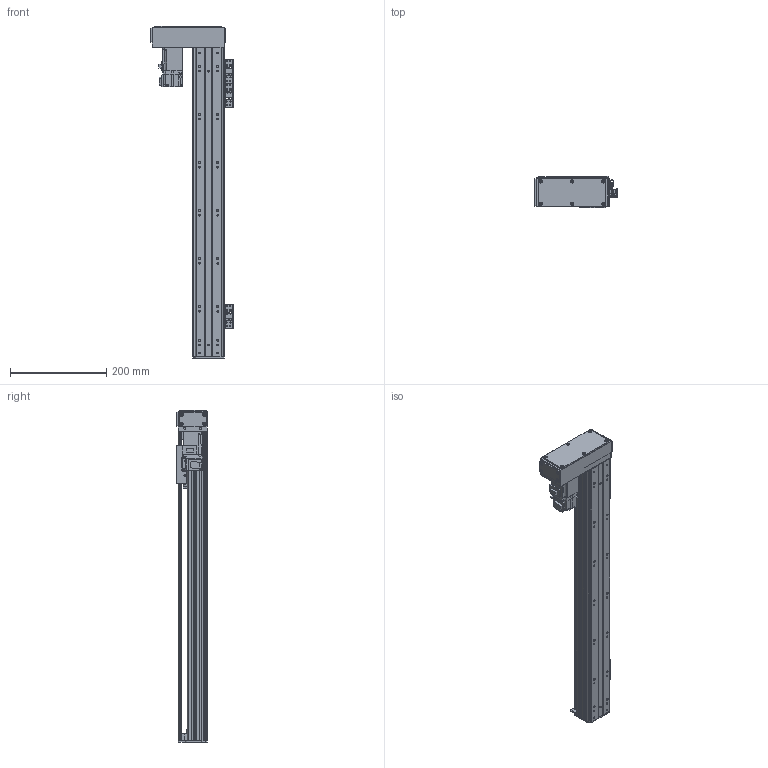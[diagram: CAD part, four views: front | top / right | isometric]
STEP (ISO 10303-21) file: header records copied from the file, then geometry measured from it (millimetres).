
FILE_DESCRIPTION(/* description */ ('MANUFACTURE'),/* implementation_level */ '2;1');
FILE_NAME(/* name */ '\\192.168.0.160\disk1\HAN SHIN Master\B-설계부문\C-표준\B-2024년\BC02-표준도면\+로봇 개선표준도면\표준 승인도 폴더 - 재작업\3D\HG65\병렬-L\HG65-L10-N-0500-R10.stp',/* time_stamp */ '2024-03-05T15:05:45+09:00',/* author */ ('User'),/* organization */ (''),/* preprocessor_version */ 'ST-DEVELOPER v18.1',/* originating_system */ 'Autodesk Inventor 2022',/* authorisation */ 'LIP');
FILE_SCHEMA (('AUTOMOTIVE_DESIGN { 1 0 10303 214 3 1 1 }'));
Products named in the file (22): HG65-L10-N-0500-R10 - 간소화; HR65 R BASE; HR65,75 SENSOR DOG; HR65 REAR COVER; HR65 FRONT BLOCK; HR65 FRONT BLOCK_1; hsr_ftht_A-M6F_grease_nipple_joint; HR65 UPCOVER (S); NIPPLE CAP(신규); HC1STOPPER; HR65 L,R MOTOR PLATE (100W)-사출; MOTOR PLATE-100W(MITSUBISHI); hg-kr13_; 화살표; HR65-LR-BELT COVER; HR65-BELT COVER-COVER; HR65-BELT COVER-COVER2; HR65-BELT COVER-COVER3; HR65 TABLE(Wide&Normal); ESF1210 NUT; SENSOR BRK(EE-SX674A); EE_SX674A
Assembly tree (34 placements, depth 2):
  HG65-L10-N-0500-R10 - 간소화
    HR65 R BASE
    HR65,75 SENSOR DOG
    SENSOR BRK(EE-SX674A)  x3
    EE_SX674A  x3
    HR65 REAR COVER
    HR65 FRONT BLOCK
    HR65 FRONT BLOCK_1
    HC1STOPPER  x4
    hsr_ftht_A-M6F_grease_nipple_joint  x3
    HR65 UPCOVER (S)
    NIPPLE CAP(신규)  x3
    HR65 L,R MOTOR PLATE (100W)-사출
    MOTOR PLATE-100W(MITSUBISHI)
    hg-kr13_
    화살표  x2
    HR65-LR-BELT COVER
    HR65-BELT COVER-COVER
    HR65-BELT COVER-COVER2
    HR65-BELT COVER-COVER3  x2
    HR65 TABLE(Wide&Normal)
    ESF1210 NUT
Bounding box: 172 x 65 x 691 mm (x, y, z)
Volume: 1048516.6 mm3; surface area: 533068.7 mm2
Topology: 34 solids, 34 shells, 2703 faces, 7438 edges, 4896 vertices
Faces by surface type: plane 1788, cylinder 675, cone 177, sphere 24, bspline 21, torus 18
Full cylindrical faces by diameter (mm): 2.459 x74, 3 x18, 3.242 x46, 3.4 x32, 3.5 x14, 4 x14, 4.134 x1, 4.5 x45, 4.917 x5, 5 x12, 5.6 x5, 5.9 x2, 6 x15, 6.5 x10, 8 x16, 9 x4, 10 x1, 12 x1, 15 x1, 16 x1, 17 x1, 22 x2, 24 x1, 24.5 x1, 28 x2, 29.4 x1, 30 x2
Entity records: 76686 total; most frequent: CARTESIAN_POINT 14990, ORIENTED_EDGE 12644, DIRECTION 12125, EDGE_CURVE 6322, LINE 4865, VECTOR 4865, VERTEX_POINT 4195, AXIS2_PLACEMENT_3D 3630
